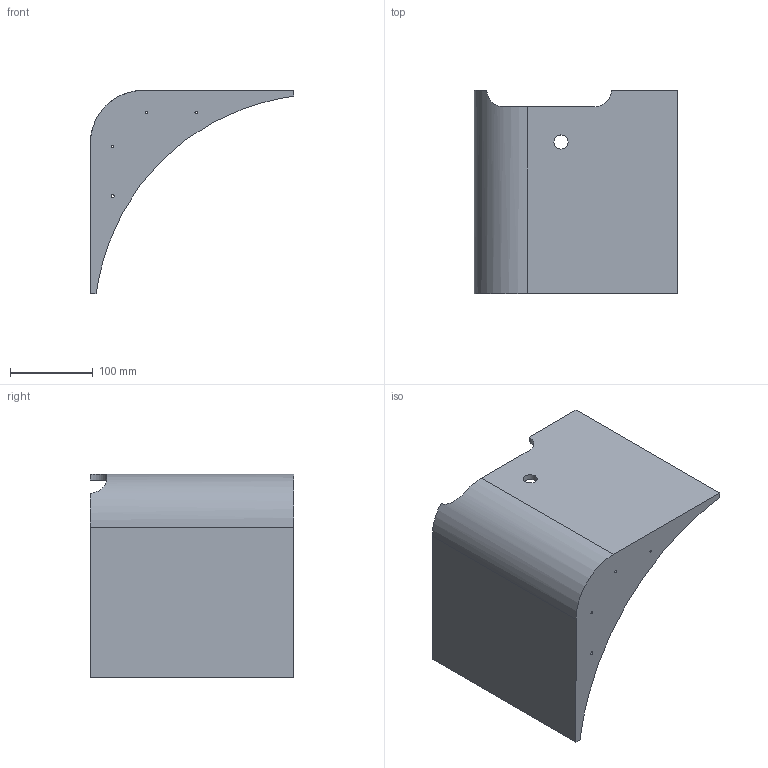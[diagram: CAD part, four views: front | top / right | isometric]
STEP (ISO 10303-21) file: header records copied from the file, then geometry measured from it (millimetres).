
FILE_DESCRIPTION(/* description */ (''),/* implementation_level */ '2;1');
FILE_NAME(/* name */ 'FrontFP1.3.stp',/* time_stamp */ '2025-10-17T11:31:11+05:00',/* author */ ('yrysz'),/* organization */ (''),/* preprocessor_version */ 'ST-DEVELOPER v20',/* originating_system */ 'Autodesk Inventor 2025',/* authorisation */ '');
FILE_SCHEMA (('AUTOMOTIVE_DESIGN { 1 0 10303 214 3 1 1 }'));
Length unit declared in the file: millimetre
Products named in the file (1): FrontFP1.3
Bounding box: 245 x 245 x 245 mm (x, y, z)
Volume: 877345.2 mm3; surface area: 256544 mm2
Topology: 1 solids, 1 shells, 23 faces, 61 edges, 40 vertices
Faces by surface type: cylinder 12, plane 11
Full cylindrical faces by diameter (mm): 2.9 x3, 3.7 x1, 17 x1
Entity records: 810 total; most frequent: CARTESIAN_POINT 153, DIRECTION 131, ORIENTED_EDGE 122, EDGE_CURVE 61, AXIS2_PLACEMENT_3D 48, VERTEX_POINT 40, LINE 35, VECTOR 35
